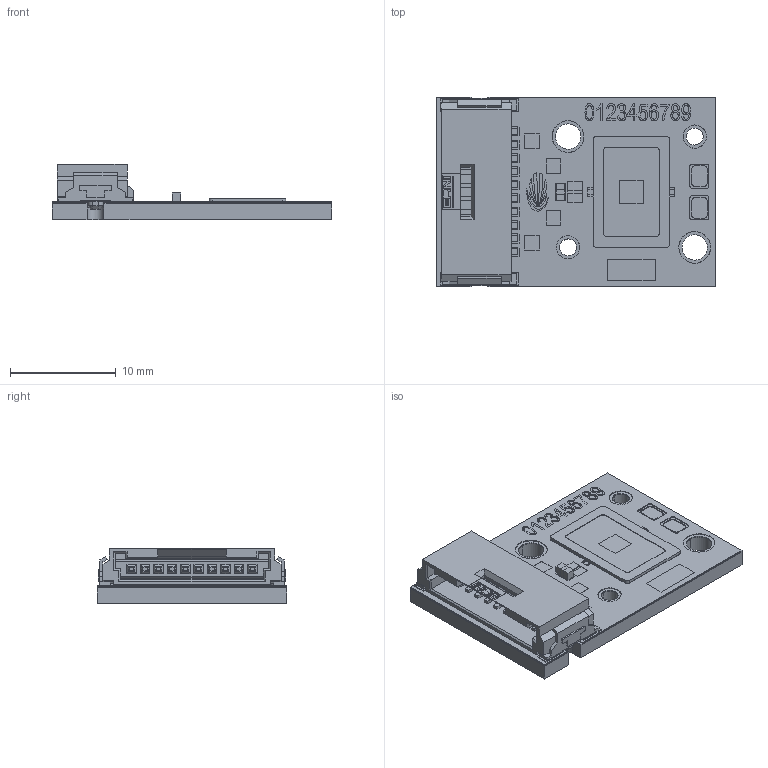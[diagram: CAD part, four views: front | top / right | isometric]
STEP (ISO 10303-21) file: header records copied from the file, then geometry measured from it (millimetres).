
FILE_DESCRIPTION(/* description */ (''),/* implementation_level */ '2;1');
FILE_NAME(/* name */ 'STEC453',/* time_stamp */ '2025-01-14T14:30:23+08:00',/* author */ (''),/* organization */ (''),/* preprocessor_version */ 'ST-DEVELOPER v16.5',/* originating_system */ '',/* authorisation */ '');
FILE_SCHEMA (('CONFIG_CONTROL_DESIGN'));
Length unit declared in the file: millimetre
Products named in the file (2): Document; 图块 01
Assembly tree (1 placements, depth 2):
  Document
    图块 01
Bounding box: 26.5 x 18 x 5.23 mm (x, y, z)
Volume: 1056.3 mm3; surface area: 1798.3 mm2
Topology: 5 solids, 5 shells, 1212 faces, 2960 edges, 1988 vertices
Faces by surface type: plane 836, cylinder 368, bspline 8
Entity records: 39416 total; most frequent: CARTESIAN_POINT 12523, ORIENTED_EDGE 5920, EDGE_CURVE 2960, B_SPLINE_CURVE_WITH_KNOTS 2219, VERTEX_POINT 1988, EDGE_LOOP 1452, DIRECTION 1214, ADVANCED_FACE 1212
